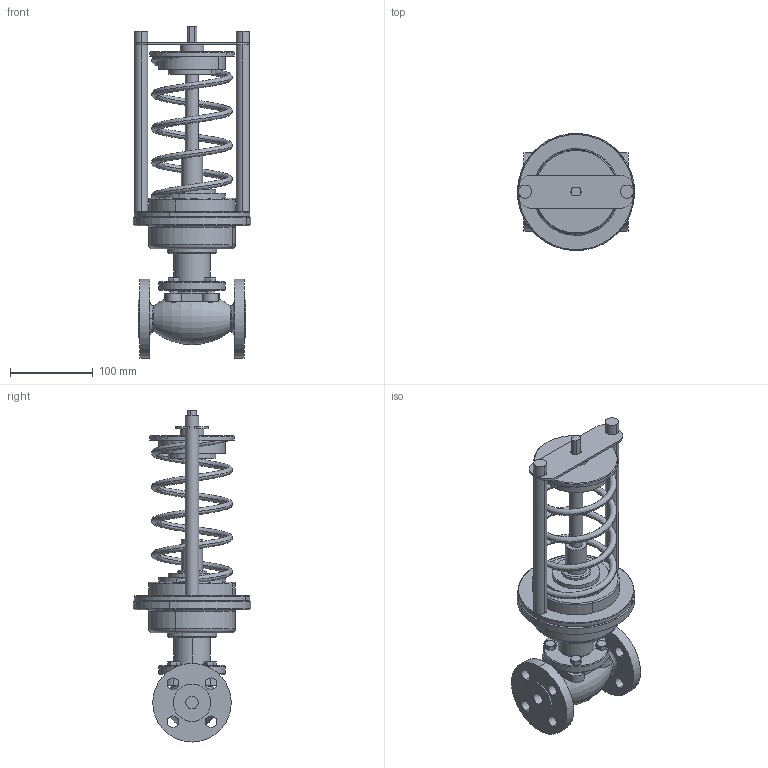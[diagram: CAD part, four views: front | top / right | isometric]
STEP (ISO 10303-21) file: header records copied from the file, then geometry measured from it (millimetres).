
FILE_DESCRIPTION (( 'STEP AP214' ), '1' );
FILE_NAME ('RDT, RDT-B DN-15.STEP', '2025-12-12T05:41:39', ( '' ), ( '' ), 'SwSTEP 2.0', 'SolidWorks 2023', '' );
FILE_SCHEMA (( 'AUTOMOTIVE_DESIGN' ));
Length unit declared in the file: millimetre
Products named in the file (1): RDT, RDT-B DN-15
Bounding box: 141.86 x 141.86 x 401.5 mm (x, y, z)
Volume: 1557591.3 mm3; surface area: 219288.1 mm2
Topology: 1 solids, 1 shells, 236 faces, 577 edges, 370 vertices
Faces by surface type: cylinder 94, plane 86, cone 40, torus 14, bspline 2
Entity records: 19559 total; most frequent: CARTESIAN_POINT 13768, DIRECTION 1274, ORIENTED_EDGE 1154, EDGE_CURVE 577, AXIS2_PLACEMENT_3D 520, VERTEX_POINT 370, EDGE_LOOP 293, CIRCLE 285
